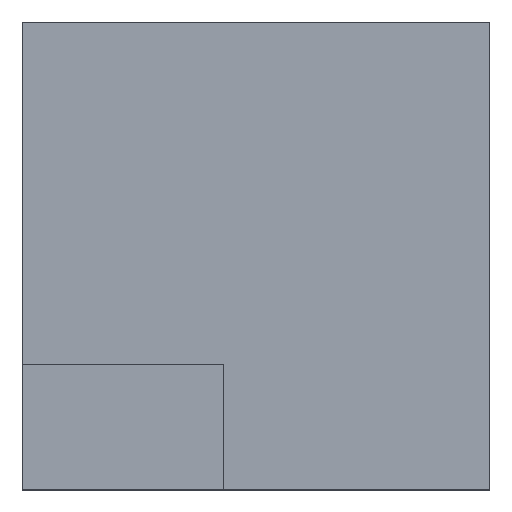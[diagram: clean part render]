
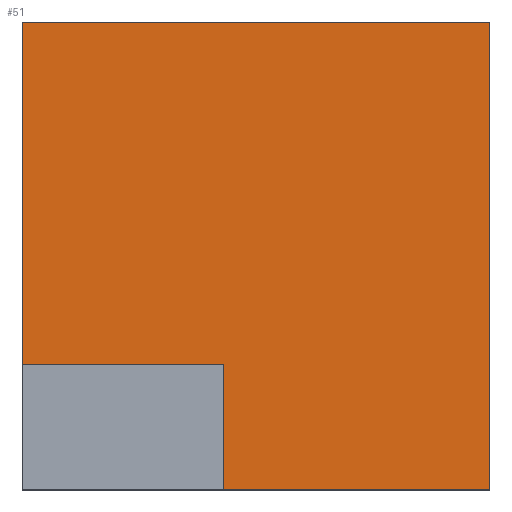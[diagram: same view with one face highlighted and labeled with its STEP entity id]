
A CAD part, top view. The second image highlights one B-rep face of the part: STEP entity #51.
In plain terms, the highlighted planar face has unit normal (0, 0, 1).
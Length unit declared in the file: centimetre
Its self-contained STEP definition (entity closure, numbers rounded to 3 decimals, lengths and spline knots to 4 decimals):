
#1 = CARTESIAN_POINT ( 'NONE',  ( 430.6175, 267.8493, 1000. ) ) ;
#2 = CARTESIAN_POINT ( 'NONE',  ( 430.6175, 0., 1000. ) ) ;
#8 = DIRECTION ( 'NONE',  ( -1., 0., 0. ) ) ;
#9 = CARTESIAN_POINT ( 'NONE',  ( 0., 0., 1000. ) ) ;
#21 = ORIENTED_EDGE ( 'NONE', *, *, #149, .T. ) ;
#35 = VERTEX_POINT ( 'NONE', #200 ) ;
#39 = LINE ( 'NONE', #199, #182 ) ;
#51 = ADVANCED_FACE ( 'NONE', ( #280 ), #288, .T. ) ;
#52 = CARTESIAN_POINT ( 'NONE',  ( 0., 0., 1000. ) ) ;
#64 = EDGE_CURVE ( 'NONE', #117, #98, #248, .T. ) ;
#73 = CARTESIAN_POINT ( 'NONE',  ( 1000., 0., 1000. ) ) ;
#74 = DIRECTION ( 'NONE',  ( 0., 1., 0. ) ) ;
#98 = VERTEX_POINT ( 'NONE', #230 ) ;
#101 = LINE ( 'NONE', #129, #384 ) ;
#116 = CARTESIAN_POINT ( 'NONE',  ( 0., 267.8493, 1000. ) ) ;
#117 = VERTEX_POINT ( 'NONE', #73 ) ;
#123 = AXIS2_PLACEMENT_3D ( 'NONE', #9, #358, #132 ) ;
#127 = DIRECTION ( 'NONE',  ( 0., -1., 0. ) ) ;
#129 = CARTESIAN_POINT ( 'NONE',  ( 0., 267.8493, 1000. ) ) ;
#131 = CARTESIAN_POINT ( 'NONE',  ( 0., 1000., 1000. ) ) ;
#132 = DIRECTION ( 'NONE',  ( 1., 0., 0. ) ) ;
#149 = EDGE_CURVE ( 'NONE', #35, #117, #214, .T. ) ;
#157 = EDGE_LOOP ( 'NONE', ( #189, #348, #21, #183, #216, #160 ) ) ;
#159 = VECTOR ( 'NONE', #369, 100. ) ;
#160 = ORIENTED_EDGE ( 'NONE', *, *, #376, .T. ) ;
#161 = LINE ( 'NONE', #131, #256 ) ;
#182 = VECTOR ( 'NONE', #279, 100. ) ;
#183 = ORIENTED_EDGE ( 'NONE', *, *, #64, .T. ) ;
#189 = ORIENTED_EDGE ( 'NONE', *, *, #395, .F. ) ;
#199 = CARTESIAN_POINT ( 'NONE',  ( 0., 1000., 1000. ) ) ;
#200 = CARTESIAN_POINT ( 'NONE',  ( 430.6175, 0., 1000. ) ) ;
#214 = LINE ( 'NONE', #52, #159 ) ;
#216 = ORIENTED_EDGE ( 'NONE', *, *, #326, .T. ) ;
#230 = CARTESIAN_POINT ( 'NONE',  ( 1000., 1000., 1000. ) ) ;
#247 = LINE ( 'NONE', #2, #265 ) ;
#248 = LINE ( 'NONE', #389, #357 ) ;
#256 = VECTOR ( 'NONE', #127, 100. ) ;
#265 = VECTOR ( 'NONE', #350, 100. ) ;
#269 = VERTEX_POINT ( 'NONE', #116 ) ;
#276 = VERTEX_POINT ( 'NONE', #1 ) ;
#279 = DIRECTION ( 'NONE',  ( -1., 0., 0. ) ) ;
#280 = FACE_OUTER_BOUND ( 'NONE', #157, .T. ) ;
#288 = PLANE ( 'NONE',  #123 ) ;
#326 = EDGE_CURVE ( 'NONE', #98, #363, #39, .T. ) ;
#348 = ORIENTED_EDGE ( 'NONE', *, *, #391, .F. ) ;
#350 = DIRECTION ( 'NONE',  ( 0., 1., 0. ) ) ;
#357 = VECTOR ( 'NONE', #74, 100. ) ;
#358 = DIRECTION ( 'NONE',  ( 0., 0., 1. ) ) ;
#363 = VERTEX_POINT ( 'NONE', #380 ) ;
#369 = DIRECTION ( 'NONE',  ( 1., 0., 0. ) ) ;
#376 = EDGE_CURVE ( 'NONE', #363, #269, #161, .T. ) ;
#380 = CARTESIAN_POINT ( 'NONE',  ( 0., 1000., 1000. ) ) ;
#384 = VECTOR ( 'NONE', #8, 100. ) ;
#389 = CARTESIAN_POINT ( 'NONE',  ( 1000., 1000., 1000. ) ) ;
#391 = EDGE_CURVE ( 'NONE', #35, #276, #247, .T. ) ;
#395 = EDGE_CURVE ( 'NONE', #276, #269, #101, .T. ) ;
